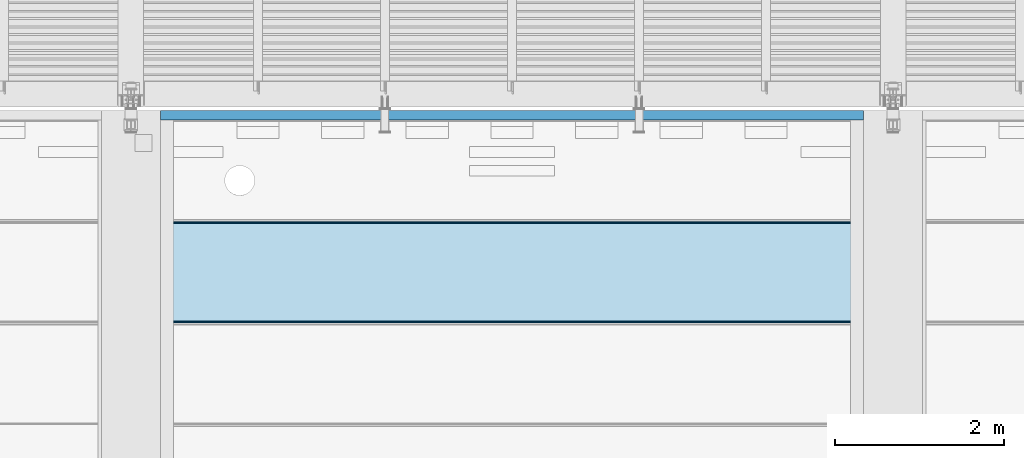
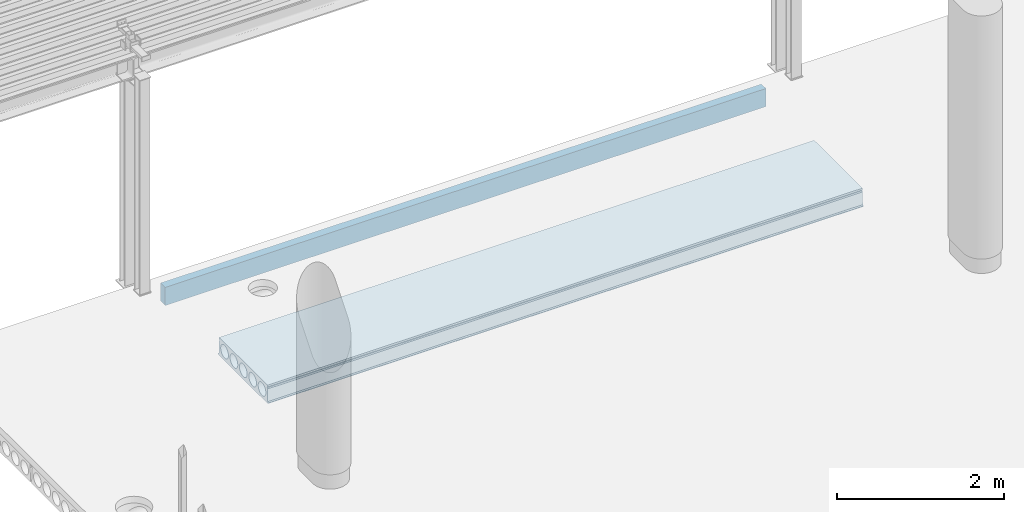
# One storey, part 13 of 34: 2 slabs.
"""IFC2X3 building model written with IfcOpenShell, lengths in millimetres."""

from ifc_helpers import new_model, entity, si_unit, converted_unit, derived_unit, direction, frame, origin_with_axes, place, context, subcontext, project, spatial, polyline, outline, extrude, material, layer, layer_set, layer_usage, type_object, element, save


model = new_model("IFC2X3")

# Units and contexts
model_context = context("Model", 3, precision=0.01, world=frame((0.0, 4.29681676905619e-09, 0.0)), true_north=direction((4.01073788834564e-13, 1.0)))
plan_context = context("Plan", 3, precision=0.01, world=frame((0.0, 4.29681676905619e-09, 0.0)), true_north=direction((4.01073788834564e-13, 1.0)))
body_context = subcontext(model_context, "Body", "Model", "MODEL_VIEW")
ifc_project = project(units=[converted_unit("PLANEANGLEUNIT", "DEGREE", entity("IfcPositiveLengthMeasure", 0.0174532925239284), si_unit("PLANEANGLEUNIT", "RADIAN"), dimensions=[0, 0, 0, 0, 0, 0, 0]), si_unit("AREAUNIT", "SQUARE_METRE"), si_unit("LENGTHUNIT", "METRE", prefix="MILLI"), si_unit("MASSUNIT", "GRAM", prefix="KILO"), si_unit("POWERUNIT", "WATT"), si_unit("PRESSUREUNIT", "PASCAL"), si_unit("FORCEUNIT", "NEWTON", prefix="KILO"), si_unit("ELECTRICVOLTAGEUNIT", "VOLT"), si_unit("ELECTRICCURRENTUNIT", "AMPERE"), si_unit("THERMODYNAMICTEMPERATUREUNIT", "DEGREE_CELSIUS"), si_unit("TIMEUNIT", "SECOND"), si_unit("VOLUMEUNIT", "CUBIC_METRE"), derived_unit("LINEARVELOCITYUNIT", [(si_unit("LENGTHUNIT", "METRE"), 1), (si_unit("TIMEUNIT", "SECOND"), -1)]), derived_unit("VOLUMETRICFLOWRATEUNIT", [(si_unit("VOLUMEUNIT", "CUBIC_METRE"), 1), (si_unit("TIMEUNIT", "SECOND"), -1)]), derived_unit("THERMALTRANSMITTANCEUNIT", [(si_unit("POWERUNIT", "WATT"), 1), (si_unit("THERMODYNAMICTEMPERATUREUNIT", "KELVIN"), -1), (si_unit("AREAUNIT", "SQUARE_METRE"), -1)]), derived_unit("SOUNDPRESSUREUNIT", [(si_unit("PRESSUREUNIT", "PASCAL"), 1)])], contexts=[model_context, plan_context])

# Site, building, storey
site_placement = place(None, frame((0.0, -4.29681676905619e-09, 0.0), z_axis=(0.0, 0.0, 1.0), x_axis=(1.0, 0.0, 0.0)))
site = spatial("IfcSite", under=ifc_project, at=site_placement, Name="Gardermoen", CompositionType="ELEMENT")
building_placement = place(site_placement, frame((0.0, 4.29681676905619e-09, 0.0), z_axis=(0.0, 0.0, 1.0), x_axis=(1.0, 0.0, 0.0)))
building = spatial("IfcBuilding", under=site, at=building_placement, Name="TH", CompositionType="ELEMENT")
storey_placement = place(building_placement, origin_with_axes())
storey = spatial("IfcBuildingStorey", under=building, at=storey_placement, Name="F", CompositionType="ELEMENT", Elevation=0.0)

# Slabs
ifc_material_1 = material(Name="CONCRETE/C45/55")
slab_type_1 = type_object("IfcSlabType", Name="HD265", PredefinedType="NOTDEFINED")
slab_1_placement = place(storey_placement, frame((898389.999766, 482899.989724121, 209897.5), z_axis=(0.0, 0.0, 1.0), x_axis=(1.0, 0.0, 0.0)))
element("IfcSlab", 1, at=slab_1_placement, inside=storey, type_object=slab_type_1, material=ifc_material_1, Name="HULLDEKKE", ObjectType="HD265", PredefinedType="FLOOR", context=body_context, shape_type="SweptSolid", body=[
    extrude(outline(polyline([(-583.380004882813, -132.5), (-600.0, -122.5), (-600.0, -112.5), (-585.0, -102.5), (-577.5, 77.5), (-570.0, 92.5), (-577.5, 107.5), (-577.5, 132.5), (577.5, 132.5), (577.5, 107.5), (570.0, 92.5), (577.5, 77.5), (585.0, -102.5), (600.0, -112.5), (600.0, -122.5), (583.380004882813, -132.5), (-583.380004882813, -132.5)]), holes=[polyline([(-539.238420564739, 15.2249996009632), (-540.184065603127, 7.63858945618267), (-540.5, 0.0), (-540.184065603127, -7.63858945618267), (-539.238420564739, -15.2249996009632), (-537.669524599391, -22.7074075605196), (-535.488094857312, -30.0347009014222), (-532.709032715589, -37.1568267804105), (-529.351321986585, -44.0251338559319), (-525.437899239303, -50.5927046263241), (-520.995497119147, -56.8146759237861), (-516.05446173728, -62.6485453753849), (-510.648545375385, -68.0544617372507), (-504.814675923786, -72.9954971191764), (-498.592704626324, -77.437899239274), (-492.025133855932, -81.3513219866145), (-485.15682678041, -84.7090327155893), (-478.034700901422, -87.4880948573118), (-470.707407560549, -89.6695245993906), (-463.224999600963, -91.2384205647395), (-455.638589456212, -92.1840656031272), (-448.0, -92.5), (-440.361410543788, -92.1840656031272), (-432.775000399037, -91.2384205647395), (-425.292592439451, -89.6695245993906), (-417.965299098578, -87.4880948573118), (-410.84317321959, -84.7090327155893), (-403.974866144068, -81.3513219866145), (-397.407295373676, -77.437899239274), (-391.185324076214, -72.9954971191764), (-385.351454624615, -68.0544617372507), (-379.94553826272, -62.6485453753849), (-375.004502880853, -56.8146759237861), (-370.562100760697, -50.5927046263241), (-366.648678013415, -44.0251338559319), (-363.290967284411, -37.1568267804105), (-360.511905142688, -30.0347009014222), (-358.330475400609, -22.7074075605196), (-356.761579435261, -15.2249996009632), (-355.815934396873, -7.63858945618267), (-355.5, 0.0), (-355.815934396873, 7.63858945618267), (-356.761579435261, 15.2249996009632), (-358.330475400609, 22.7074075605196), (-360.511905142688, 30.0347009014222), (-363.290967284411, 37.1568267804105), (-366.648678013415, 44.0251338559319), (-370.562100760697, 50.5927046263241), (-375.004502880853, 56.8146759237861), (-379.94553826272, 62.6485453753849), (-385.351454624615, 68.0544617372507), (-391.185324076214, 72.9954971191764), (-397.407295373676, 77.437899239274), (-403.974866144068, 81.3513219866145), (-410.84317321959, 84.7090327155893), (-417.965299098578, 87.4880948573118), (-425.292592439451, 89.6695245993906), (-432.775000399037, 91.2384205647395), (-440.361410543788, 92.1840656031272), (-448.0, 92.5), (-455.638589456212, 92.1840656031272), (-463.224999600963, 91.2384205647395), (-470.707407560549, 89.6695245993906), (-478.034700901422, 87.4880948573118), (-485.15682678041, 84.7090327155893), (-492.025133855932, 81.3513219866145), (-498.592704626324, 77.437899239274), (-504.814675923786, 72.9954971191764), (-510.648545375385, 68.0544617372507), (-516.05446173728, 62.6485453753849), (-520.995497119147, 56.8146759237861), (-525.437899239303, 50.5927046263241), (-529.351321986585, 44.0251338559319), (-532.709032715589, 37.1568267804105), (-535.488094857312, 30.0347009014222), (-537.669524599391, 22.7074075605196), (-539.238420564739, 15.2249996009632)]), polyline([(-315.238420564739, 15.2249996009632), (-316.184065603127, 7.63858945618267), (-316.5, 0.0), (-316.184065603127, -7.63858945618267), (-315.238420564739, -15.2249996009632), (-313.669524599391, -22.7074075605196), (-311.488094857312, -30.0347009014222), (-308.709032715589, -37.1568267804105), (-305.351321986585, -44.0251338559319), (-301.437899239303, -50.5927046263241), (-296.995497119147, -56.8146759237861), (-292.05446173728, -62.6485453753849), (-286.648545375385, -68.0544617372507), (-280.814675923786, -72.9954971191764), (-274.592704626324, -77.437899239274), (-268.025133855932, -81.3513219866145), (-261.15682678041, -84.7090327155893), (-254.034700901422, -87.4880948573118), (-246.707407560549, -89.6695245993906), (-239.224999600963, -91.2384205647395), (-231.638589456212, -92.1840656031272), (-224.0, -92.5), (-216.361410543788, -92.1840656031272), (-208.775000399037, -91.2384205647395), (-201.292592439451, -89.6695245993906), (-193.965299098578, -87.4880948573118), (-186.84317321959, -84.7090327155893), (-179.974866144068, -81.3513219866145), (-173.407295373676, -77.437899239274), (-167.185324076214, -72.9954971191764), (-161.351454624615, -68.0544617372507), (-155.94553826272, -62.6485453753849), (-151.004502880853, -56.8146759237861), (-146.562100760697, -50.5927046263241), (-142.648678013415, -44.0251338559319), (-139.290967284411, -37.1568267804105), (-136.511905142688, -30.0347009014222), (-134.330475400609, -22.7074075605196), (-132.761579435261, -15.2249996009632), (-131.815934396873, -7.63858945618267), (-131.5, 0.0), (-131.815934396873, 7.63858945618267), (-132.761579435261, 15.2249996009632), (-134.330475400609, 22.7074075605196), (-136.511905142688, 30.0347009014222), (-139.290967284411, 37.1568267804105), (-142.648678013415, 44.0251338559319), (-146.562100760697, 50.5927046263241), (-151.004502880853, 56.8146759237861), (-155.94553826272, 62.6485453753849), (-161.351454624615, 68.0544617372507), (-167.185324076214, 72.9954971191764), (-173.407295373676, 77.437899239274), (-179.974866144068, 81.3513219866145), (-186.84317321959, 84.7090327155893), (-193.965299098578, 87.4880948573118), (-201.292592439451, 89.6695245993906), (-208.775000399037, 91.2384205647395), (-216.361410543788, 92.1840656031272), (-224.0, 92.5), (-231.638589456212, 92.1840656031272), (-239.224999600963, 91.2384205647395), (-246.707407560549, 89.6695245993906), (-254.034700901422, 87.4880948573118), (-261.15682678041, 84.7090327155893), (-268.025133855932, 81.3513219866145), (-274.592704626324, 77.437899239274), (-280.814675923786, 72.9954971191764), (-286.648545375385, 68.0544617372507), (-292.05446173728, 62.6485453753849), (-296.995497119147, 56.8146759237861), (-301.437899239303, 50.5927046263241), (-305.351321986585, 44.0251338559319), (-308.709032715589, 37.1568267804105), (-311.488094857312, 30.0347009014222), (-313.669524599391, 22.7074075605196), (-315.238420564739, 15.2249996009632)]), polyline([(-91.2384205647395, 15.2249996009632), (-92.1840656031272, 7.63858945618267), (-92.5, 0.0), (-92.1840656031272, -7.63858945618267), (-91.2384205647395, -15.2249996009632), (-89.6695245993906, -22.7074075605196), (-87.4880948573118, -30.0347009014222), (-84.7090327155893, -37.1568267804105), (-81.3513219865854, -44.0251338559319), (-77.4378992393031, -50.5927046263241), (-72.9954971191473, -56.8146759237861), (-68.0544617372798, -62.6485453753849), (-62.6485453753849, -68.0544617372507), (-56.8146759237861, -72.9954971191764), (-50.5927046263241, -77.437899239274), (-44.0251338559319, -81.3513219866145), (-37.1568267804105, -84.7090327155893), (-30.0347009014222, -87.4880948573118), (-22.7074075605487, -89.6695245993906), (-15.2249996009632, -91.2384205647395), (-7.63858945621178, -92.1840656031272), (0.0, -92.5), (7.63858945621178, -92.1840656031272), (15.2249996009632, -91.2384205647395), (22.7074075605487, -89.6695245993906), (30.0347009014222, -87.4880948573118), (37.1568267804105, -84.7090327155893), (44.0251338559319, -81.3513219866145), (50.5927046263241, -77.437899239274), (56.8146759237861, -72.9954971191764), (62.6485453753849, -68.0544617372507), (68.0544617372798, -62.6485453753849), (72.9954971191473, -56.8146759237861), (77.4378992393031, -50.5927046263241), (81.3513219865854, -44.0251338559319), (84.7090327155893, -37.1568267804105), (87.4880948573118, -30.0347009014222), (89.6695245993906, -22.7074075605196), (91.2384205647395, -15.2249996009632), (92.1840656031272, -7.63858945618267), (92.5, 0.0), (92.1840656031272, 7.63858945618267), (91.2384205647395, 15.2249996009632), (89.6695245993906, 22.7074075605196), (87.4880948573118, 30.0347009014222), (84.7090327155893, 37.1568267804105), (81.3513219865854, 44.0251338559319), (77.4378992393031, 50.5927046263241), (72.9954971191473, 56.8146759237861), (68.0544617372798, 62.6485453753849), (62.6485453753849, 68.0544617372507), (56.8146759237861, 72.9954971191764), (50.5927046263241, 77.437899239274), (44.0251338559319, 81.3513219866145), (37.1568267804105, 84.7090327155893), (30.0347009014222, 87.4880948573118), (22.7074075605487, 89.6695245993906), (15.2249996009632, 91.2384205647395), (7.63858945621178, 92.1840656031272), (0.0, 92.5), (-7.63858945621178, 92.1840656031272), (-15.2249996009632, 91.2384205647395), (-22.7074075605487, 89.6695245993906), (-30.0347009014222, 87.4880948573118), (-37.1568267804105, 84.7090327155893), (-44.0251338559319, 81.3513219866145), (-50.5927046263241, 77.437899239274), (-56.8146759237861, 72.9954971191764), (-62.6485453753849, 68.0544617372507), (-68.0544617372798, 62.6485453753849), (-72.9954971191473, 56.8146759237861), (-77.4378992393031, 50.5927046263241), (-81.3513219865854, 44.0251338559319), (-84.7090327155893, 37.1568267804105), (-87.4880948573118, 30.0347009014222), (-89.6695245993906, 22.7074075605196), (-91.2384205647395, 15.2249996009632)]), polyline([(132.761579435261, 15.2249996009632), (131.815934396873, 7.63858945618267), (131.5, 0.0), (131.815934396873, -7.63858945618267), (132.761579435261, -15.2249996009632), (134.330475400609, -22.7074075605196), (136.511905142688, -30.0347009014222), (139.290967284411, -37.1568267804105), (142.648678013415, -44.0251338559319), (146.562100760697, -50.5927046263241), (151.004502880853, -56.8146759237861), (155.94553826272, -62.6485453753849), (161.351454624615, -68.0544617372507), (167.185324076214, -72.9954971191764), (173.407295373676, -77.437899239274), (179.974866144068, -81.3513219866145), (186.84317321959, -84.7090327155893), (193.965299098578, -87.4880948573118), (201.292592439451, -89.6695245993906), (208.775000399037, -91.2384205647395), (216.361410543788, -92.1840656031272), (224.0, -92.5), (231.638589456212, -92.1840656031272), (239.224999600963, -91.2384205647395), (246.707407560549, -89.6695245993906), (254.034700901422, -87.4880948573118), (261.15682678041, -84.7090327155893), (268.025133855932, -81.3513219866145), (274.592704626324, -77.437899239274), (280.814675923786, -72.9954971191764), (286.648545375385, -68.0544617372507), (292.05446173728, -62.6485453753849), (296.995497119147, -56.8146759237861), (301.437899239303, -50.5927046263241), (305.351321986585, -44.0251338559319), (308.709032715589, -37.1568267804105), (311.488094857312, -30.0347009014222), (313.669524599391, -22.7074075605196), (315.238420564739, -15.2249996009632), (316.184065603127, -7.63858945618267), (316.5, 0.0), (316.184065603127, 7.63858945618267), (315.238420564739, 15.2249996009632), (313.669524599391, 22.7074075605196), (311.488094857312, 30.0347009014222), (308.709032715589, 37.1568267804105), (305.351321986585, 44.0251338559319), (301.437899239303, 50.5927046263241), (296.995497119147, 56.8146759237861), (292.05446173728, 62.6485453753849), (286.648545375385, 68.0544617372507), (280.814675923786, 72.9954971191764), (274.592704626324, 77.437899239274), (268.025133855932, 81.3513219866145), (261.15682678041, 84.7090327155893), (254.034700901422, 87.4880948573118), (246.707407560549, 89.6695245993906), (239.224999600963, 91.2384205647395), (231.638589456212, 92.1840656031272), (224.0, 92.5), (216.361410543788, 92.1840656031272), (208.775000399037, 91.2384205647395), (201.292592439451, 89.6695245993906), (193.965299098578, 87.4880948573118), (186.84317321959, 84.7090327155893), (179.974866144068, 81.3513219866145), (173.407295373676, 77.437899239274), (167.185324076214, 72.9954971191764), (161.351454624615, 68.0544617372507), (155.94553826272, 62.6485453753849), (151.004502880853, 56.8146759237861), (146.562100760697, 50.5927046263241), (142.648678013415, 44.0251338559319), (139.290967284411, 37.1568267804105), (136.511905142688, 30.0347009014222), (134.330475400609, 22.7074075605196), (132.761579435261, 15.2249996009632)]), polyline([(356.761579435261, 15.2249996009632), (355.815934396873, 7.63858945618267), (355.5, 0.0), (355.815934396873, -7.63858945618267), (356.761579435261, -15.2249996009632), (358.330475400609, -22.7074075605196), (360.511905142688, -30.0347009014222), (363.290967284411, -37.1568267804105), (366.648678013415, -44.0251338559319), (370.562100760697, -50.5927046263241), (375.004502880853, -56.8146759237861), (379.94553826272, -62.6485453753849), (385.351454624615, -68.0544617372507), (391.185324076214, -72.9954971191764), (397.407295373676, -77.437899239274), (403.974866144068, -81.3513219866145), (410.84317321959, -84.7090327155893), (417.965299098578, -87.4880948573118), (425.292592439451, -89.6695245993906), (432.775000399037, -91.2384205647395), (440.361410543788, -92.1840656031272), (448.0, -92.5), (455.638589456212, -92.1840656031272), (463.224999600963, -91.2384205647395), (470.707407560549, -89.6695245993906), (478.034700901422, -87.4880948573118), (485.15682678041, -84.7090327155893), (492.025133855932, -81.3513219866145), (498.592704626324, -77.437899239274), (504.814675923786, -72.9954971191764), (510.648545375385, -68.0544617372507), (516.05446173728, -62.6485453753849), (520.995497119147, -56.8146759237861), (525.437899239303, -50.5927046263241), (529.351321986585, -44.0251338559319), (532.709032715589, -37.1568267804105), (535.488094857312, -30.0347009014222), (537.669524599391, -22.7074075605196), (539.238420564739, -15.2249996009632), (540.184065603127, -7.63858945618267), (540.5, 0.0), (540.184065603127, 7.63858945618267), (539.238420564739, 15.2249996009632), (537.669524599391, 22.7074075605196), (535.488094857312, 30.0347009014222), (532.709032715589, 37.1568267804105), (529.351321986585, 44.0251338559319), (525.437899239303, 50.5927046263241), (520.995497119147, 56.8146759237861), (516.05446173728, 62.6485453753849), (510.648545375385, 68.0544617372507), (504.814675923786, 72.9954971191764), (498.592704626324, 77.437899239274), (492.025133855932, 81.3513219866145), (485.15682678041, 84.7090327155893), (478.034700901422, 87.4880948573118), (470.707407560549, 89.6695245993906), (463.224999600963, 91.2384205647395), (455.638589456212, 92.1840656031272), (448.0, 92.5), (440.361410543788, 92.1840656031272), (432.775000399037, 91.2384205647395), (425.292592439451, 89.6695245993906), (417.965299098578, 87.4880948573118), (410.84317321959, 84.7090327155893), (403.974866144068, 81.3513219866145), (397.407295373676, 77.437899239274), (391.185324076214, 72.9954971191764), (385.351454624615, 68.0544617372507), (379.94553826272, 62.6485453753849), (375.004502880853, 56.8146759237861), (370.562100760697, 50.5927046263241), (366.648678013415, 44.0251338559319), (363.290967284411, 37.1568267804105), (360.511905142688, 30.0347009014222), (358.330475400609, 22.7074075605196), (356.761579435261, 15.2249996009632)])]), frame((8220.0, 0.0, 0.0), z_axis=(-1.0, 0.0, 6.61744490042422e-24), x_axis=(0.0, -1.0, 0.0)), (0.0, 0.0, 1.0), 8220.0),
])
ifc_material_2 = material(Name="CONCRETE/C30/37")
ifc_layer = layer(ifc_material_2, 265.0)
ifc_layer_set = layer_set([ifc_layer], Name="Floor: Insitu CONCRETE/C30/37")
ifc_layer_usage = layer_usage(ifc_layer_set, "AXIS3", "POSITIVE", -132.5)
slab_type_2 = type_object("IfcSlabType", Name="265*110", PredefinedType="NOTDEFINED")
slab_2_placement = place(storey_placement, frame((906649.999531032, 484809.9965625, 209897.5), z_axis=(6.61744490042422e-24, 0.0, 1.0), x_axis=(-1.0, 0.0, 6.61744490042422e-24)))
element("IfcSlab", 2, at=slab_2_placement, inside=storey, type_object=slab_type_2, material=ifc_layer_usage, Name="PÅSTØP", ObjectType="265*110", PredefinedType="FLOOR", context=body_context, shape_type="SweptSolid", body=[
    extrude(outline(polyline([(0.0, 0.0), (8300.00000000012, -1.10373366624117e-06), (8300.00000000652, 109.999999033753), (1.24280340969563e-05, 110.000938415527), (0.0, 0.0)])), frame((0.0, 0.0, -132.5), z_axis=(0.0, 0.0, 1.0), x_axis=(1.0, 0.0, 0.0)), (0.0, 0.0, 1.0), 265.0),
])

save(model, "model.ifc")
